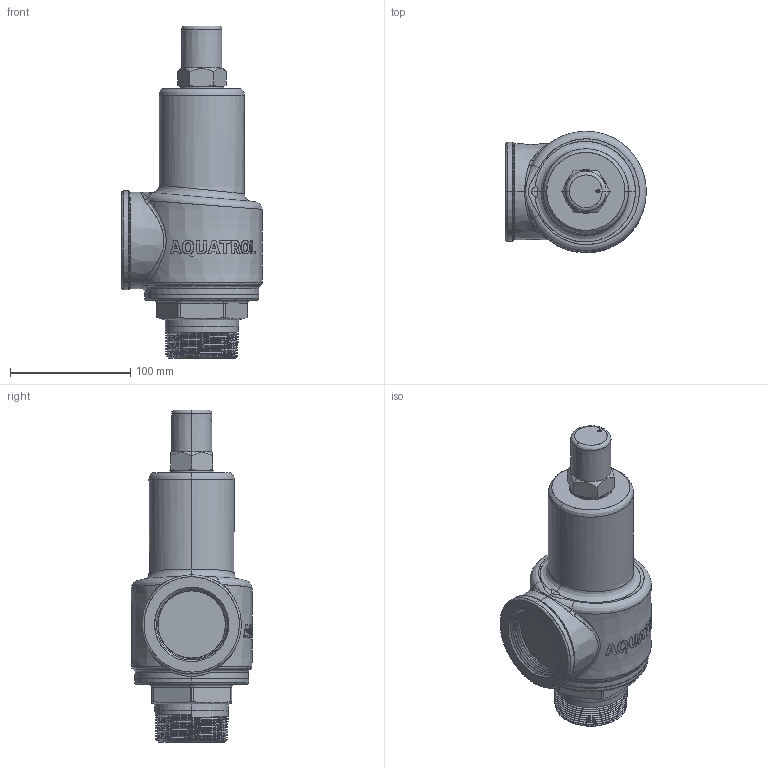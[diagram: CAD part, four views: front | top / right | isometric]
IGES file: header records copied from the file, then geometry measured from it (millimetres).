
Start section: SolidWorks IGES file using analytic representation for surfaces
Global section: file name: C:\Design\Design\Aquatrol\Customer 3D Files\Series 69 Customer Files\Series 69 2000 x 2000\Customer\Series 69 2000 x 2000.IGS; native system: SolidWorks 2015; preprocessor: SolidWorks 2015; author: Karl; date: 141208.091211; units: inch
Bounding box: 117.03 x 101.19 x 276.53 mm (x, y, z)
Surface area: 88280.4 mm2 (no closed solid volume)
Topology: 0 solids, 0 shells, 238 faces, 6445 edges, 6445 vertices
Faces by surface type: bspline 145, revolution 93
